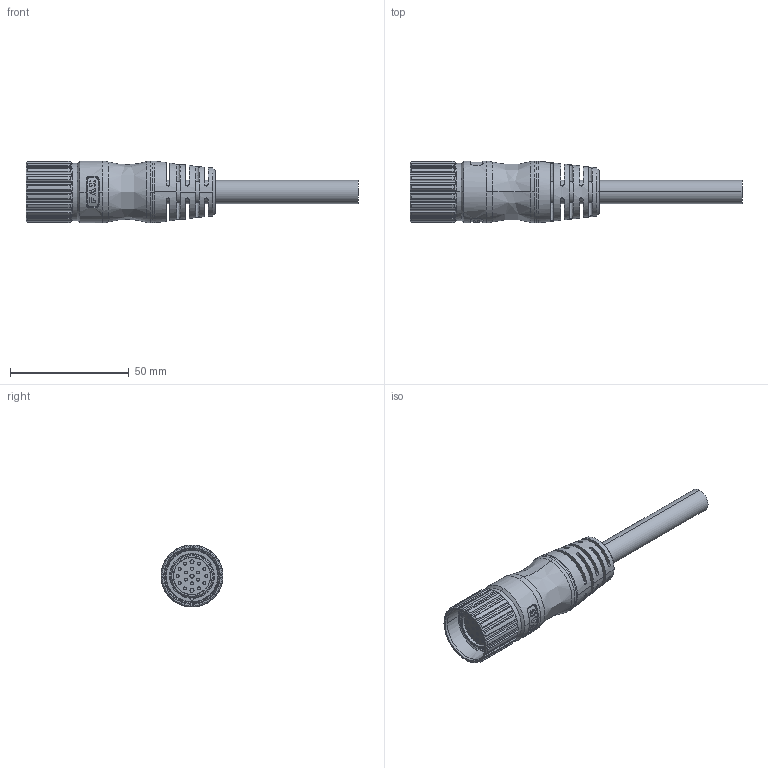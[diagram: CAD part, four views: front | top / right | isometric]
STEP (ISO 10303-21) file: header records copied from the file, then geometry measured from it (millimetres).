
FILE_DESCRIPTION (( 'STEP AP203' ), '1' );
FILE_NAME ('68CB11.STEP', '2024-09-30T08:31:52', ( 'L' ), ( '' ), 'SwSTEP 2.0', 'SolidWorks 2019', '' );
FILE_SCHEMA (( 'CONFIG_CONTROL_DESIGN' ));
Length unit declared in the file: millimetre
Products named in the file (1): 68CB11
Bounding box: 139.5 x 26 x 26 mm (x, y, z)
Volume: 35070.3 mm3; surface area: 17195.3 mm2
Topology: 1 solids, 1 shells, 1139 faces, 3157 edges, 2044 vertices
Faces by surface type: bspline 605, plane 492, cylinder 42
Entity records: 49873 total; most frequent: CARTESIAN_POINT 26537, ORIENTED_EDGE 6314, EDGE_CURVE 3157, DIRECTION 3052, VERTEX_POINT 2044, B_SPLINE_CURVE_WITH_KNOTS 1518, AXIS2_PLACEMENT_3D 1263, EDGE_LOOP 1219
